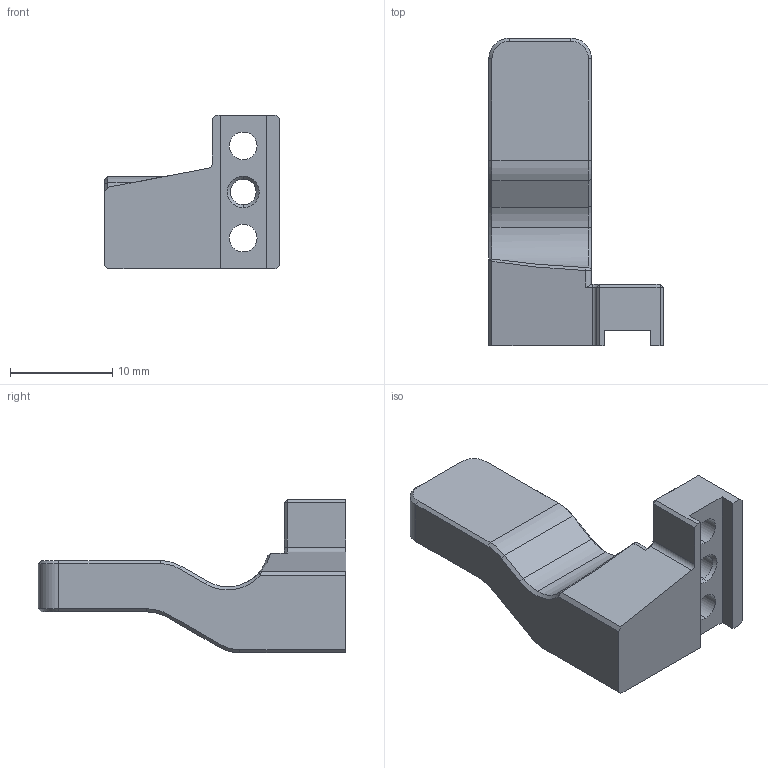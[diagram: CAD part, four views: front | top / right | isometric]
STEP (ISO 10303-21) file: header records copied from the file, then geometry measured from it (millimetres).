
FILE_DESCRIPTION (( 'STEP AP214' ), '1' );
FILE_NAME ('EPG07010103忒硌.STEP', '2021-10-18T07:42:54', ( 'User' ), ( 'China' ), 'SwSTEP 2.0', 'SolidWorks 2016', '' );
FILE_SCHEMA (( 'AUTOMOTIVE_DESIGN' ));
Length unit declared in the file: millimetre
Products named in the file (1): EPG07010103忒硌
Bounding box: 17 x 30 x 15 mm (x, y, z)
Volume: 2352.1 mm3; surface area: 1565.4 mm2
Topology: 1 solids, 1 shells, 76 faces, 180 edges, 106 vertices
Faces by surface type: plane 43, cone 16, cylinder 15, bspline 2
Entity records: 2324 total; most frequent: CARTESIAN_POINT 534, DIRECTION 366, ORIENTED_EDGE 360, EDGE_CURVE 180, LINE 126, VECTOR 126, AXIS2_PLACEMENT_3D 120, VERTEX_POINT 106
